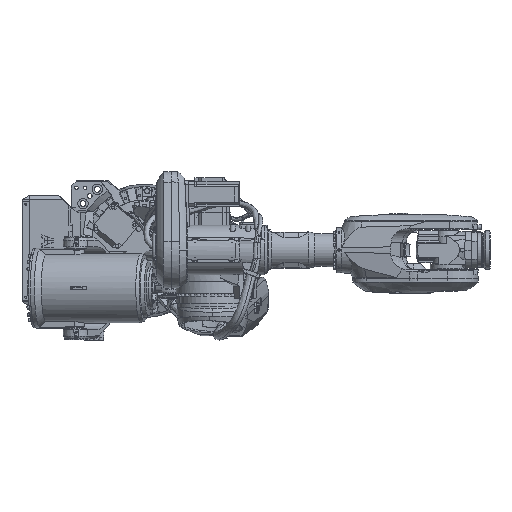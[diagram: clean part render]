
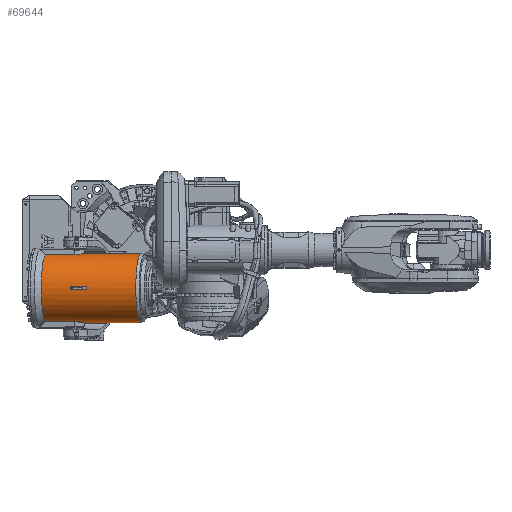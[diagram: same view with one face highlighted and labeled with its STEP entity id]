
A CAD part, top view. The second image highlights one B-rep face of the part: STEP entity #69644.
In plain terms, the highlighted cylindrical face has radius 179 mm (diameter 358 mm), a full revolution.
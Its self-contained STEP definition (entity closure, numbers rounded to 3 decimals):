
#3795=ELLIPSE('',#74257,206.691,179.);
#3796=ELLIPSE('',#74258,206.691,179.);
#4270=LINE('',#99797,#10602);
#4271=LINE('',#99801,#10603);
#4272=LINE('',#99826,#10604);
#4273=LINE('',#99829,#10605);
#4274=LINE('',#99836,#10606);
#4275=LINE('',#99839,#10607);
#10602=VECTOR('',#80684,1000.);
#10603=VECTOR('',#80687,1000.);
#10604=VECTOR('',#80688,1000.);
#10605=VECTOR('',#80691,1000.);
#10606=VECTOR('',#80696,1000.);
#10607=VECTOR('',#80699,1000.);
#16932=B_SPLINE_CURVE_WITH_KNOTS('',3,(#99776,#99777,#99778,#99779,#99780,
#99781,#99782,#99783,#99784,#99785,#99786,#99787,#99788,#99789,#99790,#99791,
#99792,#99793,#99794,#99795),.UNSPECIFIED.,.F.,.F.,(4,2,2,2,2,2,2,2,2,4),
(-14.029,-12.333,-10.755,-9.049,
-7.396,-5.743,-4.063,-2.323,
-1.159,0.),.UNSPECIFIED.);
#16933=B_SPLINE_CURVE_WITH_KNOTS('',3,(#99803,#99804,#99805,#99806,#99807,
#99808,#99809,#99810,#99811,#99812,#99813,#99814,#99815,#99816,#99817,#99818,
#99819,#99820,#99821,#99822,#99823,#99824),.UNSPECIFIED.,.F.,.F.,(4,2,2,
2,2,2,2,2,2,2,4),(-8.293,-7.517,-6.741,
-6.213,-5.174,-4.156,-3.14,
-2.113,-1.148,-0.649,0.),
 .UNSPECIFIED.);
#18201=CYLINDRICAL_SURFACE('',#74253,179.);
#18902=FACE_BOUND('',#24236,.T.);
#18903=FACE_BOUND('',#24237,.T.);
#19991=FACE_OUTER_BOUND('',#24235,.T.);
#24235=EDGE_LOOP('',(#48838,#48839,#48840,#48841,#48842,#48843,#48844,#48845));
#24236=EDGE_LOOP('',(#48846));
#24237=EDGE_LOOP('',(#48847,#48848,#48849,#48850));
#29550=CIRCLE('',#74254,179.);
#29551=CIRCLE('',#74255,179.);
#29552=CIRCLE('',#74256,179.);
#31538=VERTEX_POINT('',#99774);
#31539=VERTEX_POINT('',#99775);
#31540=VERTEX_POINT('',#99796);
#31541=VERTEX_POINT('',#99798);
#31542=VERTEX_POINT('',#99800);
#31543=VERTEX_POINT('',#99802);
#31544=VERTEX_POINT('',#99825);
#31545=VERTEX_POINT('',#99827);
#31546=VERTEX_POINT('',#99830);
#31547=VERTEX_POINT('',#99832);
#31548=VERTEX_POINT('',#99833);
#31549=VERTEX_POINT('',#99835);
#31550=VERTEX_POINT('',#99837);
#38599=EDGE_CURVE('',#31538,#31539,#16932,.T.);
#38600=EDGE_CURVE('',#31540,#31538,#4270,.T.);
#38601=EDGE_CURVE('',#31540,#31541,#29550,.T.);
#38602=EDGE_CURVE('',#31541,#31542,#4271,.T.);
#38603=EDGE_CURVE('',#31542,#31543,#16933,.T.);
#38604=EDGE_CURVE('',#31543,#31544,#4272,.T.);
#38605=EDGE_CURVE('',#31544,#31545,#29551,.T.);
#38606=EDGE_CURVE('',#31539,#31545,#4273,.T.);
#38607=EDGE_CURVE('',#31546,#31546,#29552,.T.);
#38608=EDGE_CURVE('',#31547,#31548,#3795,.T.);
#38609=EDGE_CURVE('',#31547,#31549,#4274,.T.);
#38610=EDGE_CURVE('',#31550,#31549,#3796,.T.);
#38611=EDGE_CURVE('',#31548,#31550,#4275,.T.);
#48838=ORIENTED_EDGE('',*,*,#38599,.F.);
#48839=ORIENTED_EDGE('',*,*,#38600,.F.);
#48840=ORIENTED_EDGE('',*,*,#38601,.T.);
#48841=ORIENTED_EDGE('',*,*,#38602,.T.);
#48842=ORIENTED_EDGE('',*,*,#38603,.T.);
#48843=ORIENTED_EDGE('',*,*,#38604,.T.);
#48844=ORIENTED_EDGE('',*,*,#38605,.T.);
#48845=ORIENTED_EDGE('',*,*,#38606,.F.);
#48846=ORIENTED_EDGE('',*,*,#38607,.F.);
#48847=ORIENTED_EDGE('',*,*,#38608,.F.);
#48848=ORIENTED_EDGE('',*,*,#38609,.T.);
#48849=ORIENTED_EDGE('',*,*,#38610,.F.);
#48850=ORIENTED_EDGE('',*,*,#38611,.F.);
#69644=ADVANCED_FACE('',(#19991,#18902,#18903),#18201,.T.);
#74253=AXIS2_PLACEMENT_3D('',#99773,#80682,#80683);
#74254=AXIS2_PLACEMENT_3D('',#99799,#80685,#80686);
#74255=AXIS2_PLACEMENT_3D('',#99828,#80689,#80690);
#74256=AXIS2_PLACEMENT_3D('',#99831,#80692,#80693);
#74257=AXIS2_PLACEMENT_3D('',#99834,#80694,#80695);
#74258=AXIS2_PLACEMENT_3D('',#99838,#80697,#80698);
#80682=DIRECTION('center_axis',(0.99,0.,
0.144));
#80683=DIRECTION('ref_axis',(0.,1.,0.));
#80684=DIRECTION('',(0.99,0.,0.144));
#80685=DIRECTION('center_axis',(0.99,0.,
0.144));
#80686=DIRECTION('ref_axis',(0.,1.,0.));
#80687=DIRECTION('',(0.99,0.,0.144));
#80688=DIRECTION('',(-0.99,0.,-0.144));
#80689=DIRECTION('center_axis',(0.99,0.,
0.144));
#80690=DIRECTION('ref_axis',(0.,1.,0.));
#80691=DIRECTION('',(-0.99,0.,-0.144));
#80692=DIRECTION('center_axis',(0.99,0.,
0.144));
#80693=DIRECTION('ref_axis',(0.,1.,0.));
#80694=DIRECTION('center_axis',(-0.785,0.,
-0.62));
#80695=DIRECTION('ref_axis',(-0.62,0.,0.785));
#80696=DIRECTION('',(-0.99,0.,-0.144));
#80697=DIRECTION('center_axis',(0.929,0.,
-0.37));
#80698=DIRECTION('ref_axis',(0.37,0.,0.929));
#80699=DIRECTION('',(-0.99,0.,-0.144));
#99773=CARTESIAN_POINT('Origin',(-352.5,-194.,677.51));
#99774=CARTESIAN_POINT('',(-358.848,-20.485,721.02));
#99775=CARTESIAN_POINT('',(-346.152,-20.485,634.));
#99776=CARTESIAN_POINT('Ctrl Pts',(-358.848,-20.485,
721.02));
#99777=CARTESIAN_POINT('Ctrl Pts',(-353.966,-20.485,
721.732));
#99778=CARTESIAN_POINT('Ctrl Pts',(-348.713,-20.268,
721.674));
#99779=CARTESIAN_POINT('Ctrl Pts',(-338.119,-19.369,
719.376));
#99780=CARTESIAN_POINT('Ctrl Pts',(-333.258,-18.761,
717.369));
#99781=CARTESIAN_POINT('Ctrl Pts',(-324.137,-17.42,
711.537));
#99782=CARTESIAN_POINT('Ctrl Pts',(-319.991,-16.693,
707.598));
#99783=CARTESIAN_POINT('Ctrl Pts',(-313.535,-15.575,
698.506));
#99784=CARTESIAN_POINT('Ctrl Pts',(-311.208,-15.185,
693.453));
#99785=CARTESIAN_POINT('Ctrl Pts',(-308.55,-14.92,682.736));
#99786=CARTESIAN_POINT('Ctrl Pts',(-308.242,-15.047,
677.179));
#99787=CARTESIAN_POINT('Ctrl Pts',(-309.698,-15.766,666.17));
#99788=CARTESIAN_POINT('Ctrl Pts',(-311.489,-16.356,
660.822));
#99789=CARTESIAN_POINT('Ctrl Pts',(-317.005,-17.712,650.976));
#99790=CARTESIAN_POINT('Ctrl Pts',(-320.769,-18.471,
646.566));
#99791=CARTESIAN_POINT('Ctrl Pts',(-328.27,-19.514,
640.629));
#99792=CARTESIAN_POINT('Ctrl Pts',(-331.579,-19.867,
638.653));
#99793=CARTESIAN_POINT('Ctrl Pts',(-338.618,-20.353,
635.615));
#99794=CARTESIAN_POINT('Ctrl Pts',(-342.33,-20.485,
634.558));
#99795=CARTESIAN_POINT('Ctrl Pts',(-346.152,-20.485,
634.));
#99796=CARTESIAN_POINT('',(-512.543,-20.485,698.596));
#99797=CARTESIAN_POINT('',(-358.848,-20.485,721.02));
#99798=CARTESIAN_POINT('',(-512.543,-367.515,698.596));
#99799=CARTESIAN_POINT('Origin',(-506.195,-194.,655.086));
#99800=CARTESIAN_POINT('',(-358.848,-367.515,721.02));
#99801=CARTESIAN_POINT('',(-512.543,-367.515,698.596));
#99802=CARTESIAN_POINT('',(-346.152,-367.515,634.));
#99803=CARTESIAN_POINT('Ctrl Pts',(-358.848,-367.515,
721.02));
#99804=CARTESIAN_POINT('Ctrl Pts',(-354.616,-367.515,721.637));
#99805=CARTESIAN_POINT('Ctrl Pts',(-350.34,-367.677,
721.631));
#99806=CARTESIAN_POINT('Ctrl Pts',(-341.927,-368.267,
720.394));
#99807=CARTESIAN_POINT('Ctrl Pts',(-337.856,-368.69,
719.176));
#99808=CARTESIAN_POINT('Ctrl Pts',(-331.373,-369.514,
716.157));
#99809=CARTESIAN_POINT('Ctrl Pts',(-328.898,-369.871,714.691));
#99810=CARTESIAN_POINT('Ctrl Pts',(-322.013,-370.936,
709.649));
#99811=CARTESIAN_POINT('Ctrl Pts',(-318.116,-371.636,705.436));
#99812=CARTESIAN_POINT('Ctrl Pts',(-312.202,-372.65,
695.84));
#99813=CARTESIAN_POINT('Ctrl Pts',(-310.193,-372.959,
690.563));
#99814=CARTESIAN_POINT('Ctrl Pts',(-308.274,-373.033,679.498));
#99815=CARTESIAN_POINT('Ctrl Pts',(-308.377,-372.799,673.861));
#99816=CARTESIAN_POINT('Ctrl Pts',(-310.711,-371.897,
662.841));
#99817=CARTESIAN_POINT('Ctrl Pts',(-312.935,-371.236,
657.591));
#99818=CARTESIAN_POINT('Ctrl Pts',(-319.07,-369.875,
648.495));
#99819=CARTESIAN_POINT('Ctrl Pts',(-323.088,-369.125,
644.263));
#99820=CARTESIAN_POINT('Ctrl Pts',(-330.939,-368.21,
639.064));
#99821=CARTESIAN_POINT('Ctrl Pts',(-333.794,-367.956,
637.591));
#99822=CARTESIAN_POINT('Ctrl Pts',(-340.718,-367.555,
634.942));
#99823=CARTESIAN_POINT('Ctrl Pts',(-344.013,-367.515,
634.313));
#99824=CARTESIAN_POINT('Ctrl Pts',(-346.152,-367.515,
634.));
#99825=CARTESIAN_POINT('',(-499.848,-367.515,611.577));
#99826=CARTESIAN_POINT('',(-346.152,-367.515,634.));
#99827=CARTESIAN_POINT('',(-499.848,-20.485,611.577));
#99828=CARTESIAN_POINT('Origin',(-506.195,-194.,655.086));
#99829=CARTESIAN_POINT('',(-346.152,-20.485,634.));
#99830=CARTESIAN_POINT('',(-18.991,-15.,726.168));
#99831=CARTESIAN_POINT('Origin',(-18.991,-194.,726.168));
#99832=CARTESIAN_POINT('',(-300.886,-200.938,865.799));
#99833=CARTESIAN_POINT('',(-300.886,-187.062,865.799));
#99834=CARTESIAN_POINT('Origin',(-172.877,-194.,703.717));
#99835=CARTESIAN_POINT('',(-381.366,-200.938,854.058));
#99836=CARTESIAN_POINT('',(-378.323,-200.938,854.502));
#99837=CARTESIAN_POINT('',(-381.366,-187.062,854.058));
#99838=CARTESIAN_POINT('Origin',(-457.73,-194.,662.157));
#99839=CARTESIAN_POINT('',(-300.886,-187.062,865.799));
